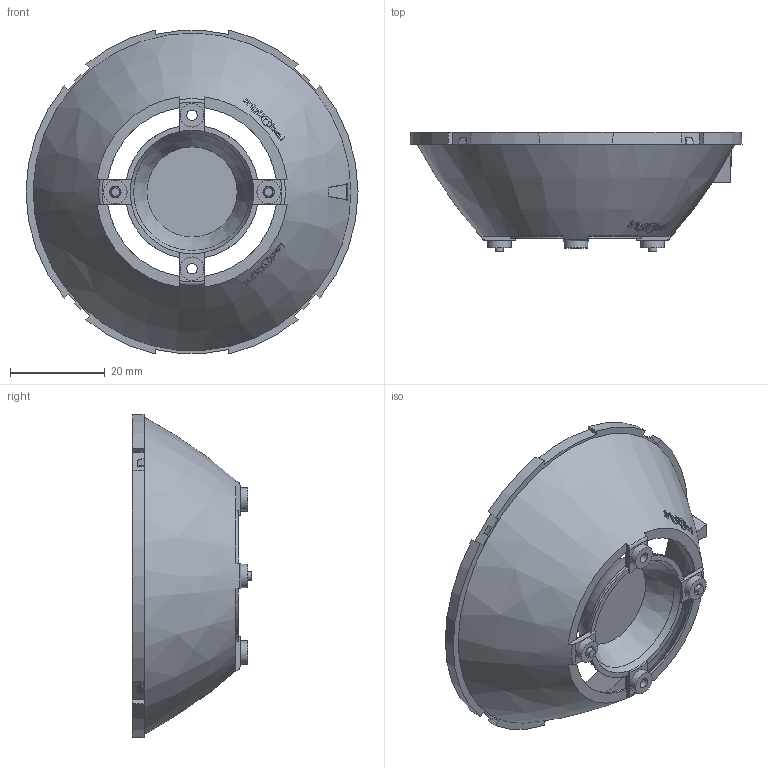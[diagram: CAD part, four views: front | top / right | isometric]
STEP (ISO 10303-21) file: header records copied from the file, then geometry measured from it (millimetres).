
FILE_DESCRIPTION(('STEP AP203'),'1');
FILE_NAME('Z:/MOULES/2901 REFLECTEURS LL/Fichiers piece/3D Modifiés pour Clients/REFLECTEUR Ø70 SF Mod.step','2010-11-23T13:31:51',(' '),(' '),'Spatial InterOp 3D',' ',' ');
FILE_SCHEMA(('CONFIG_CONTROL_DESIGN'));
Length unit declared in the file: millimetre
Products named in the file (1): 1
Bounding box: 69.91 x 25.12 x 68.22 mm (x, y, z)
Volume: 8793 mm3; surface area: 12224.3 mm2
Topology: 1 solids, 1 shells, 387 faces, 1018 edges, 667 vertices
Faces by surface type: plane 147, cylinder 140, bspline 40, cone 30, extrusion 22, revolution 4, torus 4
Full cylindrical faces by diameter (mm): 1.768 x2, 2.2 x2, 2.45 x2, 4.975 x4
Entity records: 14478 total; most frequent: CARTESIAN_POINT 6086, ORIENTED_EDGE 1972, DIRECTION 1258, EDGE_CURVE 986, VERTEX_POINT 657, B_SPLINE_CURVE_WITH_KNOTS 546, EDGE_LOOP 453, AXIS2_PLACEMENT_3D 444
